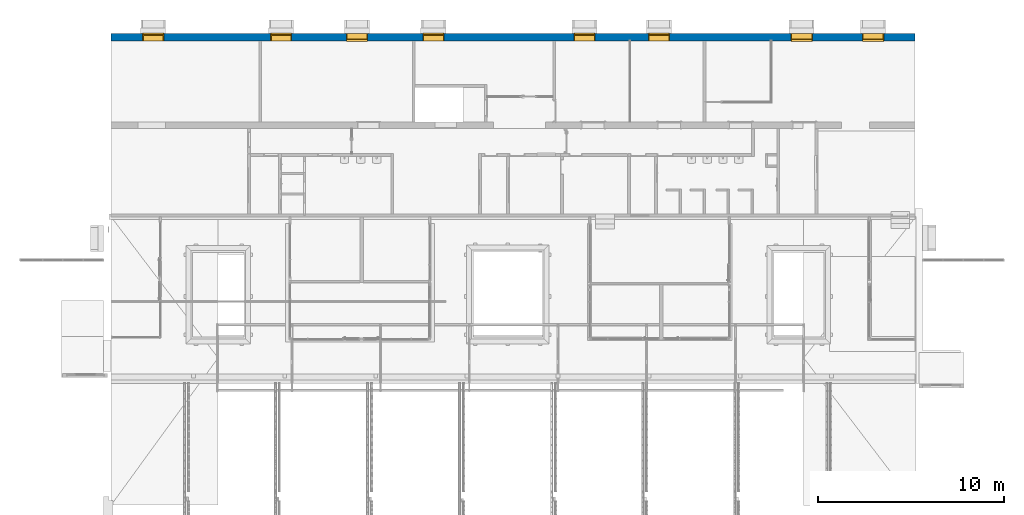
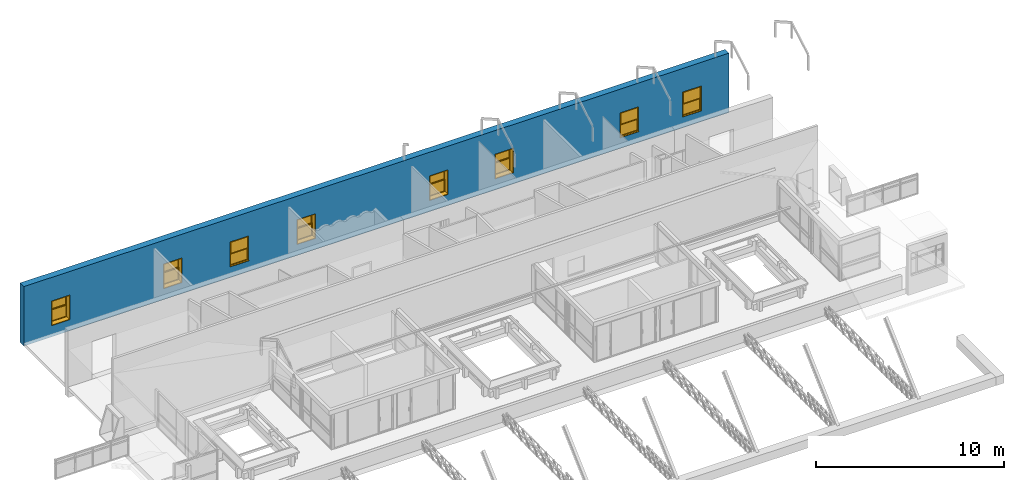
# One storey, part 136 of 153: 8 windows, 1 wall, 8 openings.
"""IFC4 building model written with IfcOpenShell, lengths in metres."""

import ifcopenshell
import ifcopenshell.guid

model = None  # the IFC model being written
_history = None  # IfcOwnerHistory: only IFC2X3 demands one
_inside = {}  # id of a spatial element -> (the spatial element, [elements in it])
_under = {}  # id of a project, library or spatial element -> (it, [spatial elements below it])
_declared = {}  # id of a project -> (the project, [libraries it declares])
_typed = {}  # id of a type object -> (the type object, [elements of that type])
_made_of = {}  # id of a material, layer set ... -> (it, [elements and type objects made of it])


def new_model(schema):
    """Start an empty IFC model of exactly this schema.

    Asked for "IFC4X3", IfcOpenShell would pick the latest addendum, in which some entities
    have other attributes; the version numbers below select the first issue.
    IFC2X3 requires an IfcOwnerHistory on every rooted entity: one is made here for all.
    """
    global model, _history
    if schema == "IFC4X3":
        model = ifcopenshell.file(schema_version=(4, 3, 0, 0))
    else:
        model = ifcopenshell.file(schema=schema)
    _inside.clear()
    _under.clear()
    _declared.clear()
    _typed.clear()
    _made_of.clear()
    _history = None
    if model.schema == "IFC2X3":
        org = make("IfcOrganization", Name="unknown")
        user = make(
            "IfcPersonAndOrganization",
            ThePerson=make("IfcPerson", FamilyName="unknown"),
            TheOrganization=org,
        )
        app = make(
            "IfcApplication",
            ApplicationDeveloper=org,
            Version="unknown",
            ApplicationFullName="unknown",
            ApplicationIdentifier="unknown",
        )
        _history = make(
            "IfcOwnerHistory",
            OwningUser=user,
            OwningApplication=app,
            ChangeAction="ADDED",
            CreationDate=0,
        )
    return model


def make(cls, **values):
    """One entity of the class cls with the attributes given. An attribute that is None is left unset."""
    return model.create_entity(
        cls, **{name: value for name, value in values.items() if value is not None}
    )


def entity(cls, *values):
    """Any entity or typed value of the class cls, its attributes in the order of the schema. None: left unset."""
    e = model.create_entity(cls)
    for i, value in enumerate(values):
        if value is not None:
            e[i] = value
    return e


def rooted(cls, **values):
    """An entity with a GlobalId (a new one), such as an element, a storey or a relation."""
    return make(cls, GlobalId=ifcopenshell.guid.new(), OwnerHistory=_history, **values)


def si_unit(unit_type, name, prefix=None):
    """IfcSIUnit, for example si_unit("LENGTHUNIT", "METRE", prefix="MILLI")."""
    return make("IfcSIUnit", UnitType=unit_type, Prefix=prefix, Name=name)


def converted_unit(unit_type, name, factor, base, dimensions=None, offset=None):
    """IfcConversionBasedUnit, such as the inch: factor (a typed value) times the base unit."""
    return make(
        "IfcConversionBasedUnit"
        if offset is None
        else "IfcConversionBasedUnitWithOffset",
        ConversionOffset=offset,
        Dimensions=None
        if dimensions is None
        else entity("IfcDimensionalExponents", *dimensions),
        UnitType=unit_type,
        Name=name,
        ConversionFactor=make(
            "IfcMeasureWithUnit", ValueComponent=factor, UnitComponent=base
        ),
    )


def derived_unit(unit_type, elements):
    """IfcDerivedUnit: a product of units, each with its exponent."""
    return make(
        "IfcDerivedUnit",
        Elements=[
            make("IfcDerivedUnitElement", Unit=unit, Exponent=power)
            for unit, power in elements
        ],
        UnitType=unit_type,
    )


def assignment(units):
    """IfcUnitAssignment: the units of a project."""
    return None if units is None else make("IfcUnitAssignment", Units=units)


def point(xyz):
    """IfcCartesianPoint."""
    return None if xyz is None else make("IfcCartesianPoint", Coordinates=xyz)


def direction(xyz):
    """IfcDirection."""
    return None if xyz is None else make("IfcDirection", DirectionRatios=xyz)


def frame(location, z_axis=None, x_axis=None):
    """IfcAxis2Placement3D, a coordinate frame: its origin and axes. An axis left out is left unset."""
    return make(
        "IfcAxis2Placement3D",
        Location=point(location),
        Axis=direction(z_axis),
        RefDirection=direction(x_axis),
    )


def origin():
    """The frame at (0, 0, 0) with its axes left unset."""
    return frame((0.0, 0.0, 0.0))


def place(relative_to, where):
    """IfcLocalPlacement: puts the frame where relative to a parent placement (None: the world)."""
    return make(
        "IfcLocalPlacement", PlacementRelTo=relative_to, RelativePlacement=where
    )


def context(
    kind, dimensions, precision=None, world=None, true_north=None, identifier=None
):
    """IfcGeometricRepresentationContext, for example the 3D "Model" context."""
    return make(
        "IfcGeometricRepresentationContext",
        ContextIdentifier=identifier,
        ContextType=kind,
        CoordinateSpaceDimension=dimensions,
        Precision=precision,
        WorldCoordinateSystem=world,
        TrueNorth=true_north,
    )


def subcontext(parent, identifier, kind, view, scale=None):
    """IfcGeometricRepresentationSubContext, for example "Body" below "Model"."""
    return make(
        "IfcGeometricRepresentationSubContext",
        ContextIdentifier=identifier,
        ContextType=kind,
        ParentContext=parent,
        TargetScale=scale,
        TargetView=view,
    )


def project(units=None, contexts=None):
    """IfcProject with its units and contexts."""
    return rooted(
        "IfcProject",
        Name="project",
        RepresentationContexts=contexts,
        UnitsInContext=assignment(units),
    )


def spatial(cls, under=None, at=None, **own):
    """A site, building, storey or space (cls), placed at a placement, below another one or the project."""
    s = rooted(cls, ObjectPlacement=at, **own)
    if under is not None:
        _under.setdefault(under.id(), (under, []))[1].append(s)
    return s


def point_list(points):
    """IfcCartesianPointList2D or 3D."""
    cls = (
        "IfcCartesianPointList2D" if len(points[0]) == 2 else "IfcCartesianPointList3D"
    )
    return make(cls, CoordList=points)


def indexed_curve(points, segments=None, self_intersect=None):
    """IfcIndexedPolyCurve: lines and arcs through numbered points (the first is 1)."""
    return make(
        "IfcIndexedPolyCurve",
        Points=point_list(points),
        Segments=segments,
        SelfIntersect=self_intersect,
    )


def outline(outer, holes=None, kind="AREA"):
    """IfcArbitraryClosedProfileDef: a profile drawn as a closed curve; with holes, ...WithVoids."""
    if holes is None:
        return make("IfcArbitraryClosedProfileDef", ProfileType=kind, OuterCurve=outer)
    return make(
        "IfcArbitraryProfileDefWithVoids",
        ProfileType=kind,
        OuterCurve=outer,
        InnerCurves=holes,
    )


def extrude(swept, where, along, depth):
    """IfcExtrudedAreaSolid: the profile swept, set in the frame where, extruded along a direction by depth."""
    return make(
        "IfcExtrudedAreaSolid",
        SweptArea=swept,
        Position=where,
        ExtrudedDirection=direction(along),
        Depth=depth,
    )


def polygons(points, faces, closed=None, point_numbers=None):
    """IfcPolygonalFaceSet: a face is its outer loop, then its inner loops; points numbered from 1."""
    made = []
    for loops in faces:
        if len(loops) == 1:
            made.append(make("IfcIndexedPolygonalFace", CoordIndex=loops[0]))
        else:
            made.append(
                make(
                    "IfcIndexedPolygonalFaceWithVoids",
                    CoordIndex=loops[0],
                    InnerCoordIndices=loops[1:],
                )
            )
    return make(
        "IfcPolygonalFaceSet",
        Coordinates=point_list(points),
        Closed=closed,
        Faces=made,
        PnIndex=point_numbers,
    )


def shape(context_of_items, identifier, shape_type, items):
    """IfcShapeRepresentation: the items that make up one representation, for example the "Body"."""
    return make(
        "IfcShapeRepresentation",
        ContextOfItems=context_of_items,
        RepresentationIdentifier=identifier,
        RepresentationType=shape_type,
        Items=items,
    )


def source(mapping_origin, context_of_items, identifier, shape_type, items):
    """IfcRepresentationMap: a shape defined once, which mapped items show again and again."""
    return make(
        "IfcRepresentationMap",
        MappingOrigin=mapping_origin,
        MappedRepresentation=shape(context_of_items, identifier, shape_type, items),
    )


def transform(
    local_origin,
    x_axis=None,
    y_axis=None,
    z_axis=None,
    scale=None,
    scale2=None,
    scale3=None,
    uniform=True,
):
    """IfcCartesianTransformationOperator3D, or its non-uniform kind. x_axis, y_axis, z_axis: its Axis1, 2, 3."""
    if uniform:
        return make(
            "IfcCartesianTransformationOperator3D",
            Axis1=direction(x_axis),
            Axis2=direction(y_axis),
            LocalOrigin=point(local_origin),
            Scale=scale,
            Axis3=direction(z_axis),
        )
    return make(
        "IfcCartesianTransformationOperator3DnonUniform",
        Axis1=direction(x_axis),
        Axis2=direction(y_axis),
        LocalOrigin=point(local_origin),
        Scale=scale,
        Axis3=direction(z_axis),
        Scale2=scale2,
        Scale3=scale3,
    )


def mapped(mapping_source, mapping_target):
    """IfcMappedItem: shows the shape of a source again, moved by a transform."""
    return make(
        "IfcMappedItem", MappingSource=mapping_source, MappingTarget=mapping_target
    )


def material(Name=None, Category=None):
    """IfcMaterial."""
    return make("IfcMaterial", Name=Name, Category=Category)


def constituent(of_material, Name=None, Category=None, fraction=None):
    """IfcMaterialConstituent: one of the materials an element consists of."""
    return make(
        "IfcMaterialConstituent",
        Name=Name,
        Material=of_material,
        Fraction=fraction,
        Category=Category,
    )


def constituent_set(constituents=None, Name=None):
    """IfcMaterialConstituentSet."""
    return make(
        "IfcMaterialConstituentSet", Name=Name, MaterialConstituents=constituents
    )


def made_of(thing, what):
    """Note that an element or type object is made of a material, layer set ...; save() writes the relation."""
    if what is not None:
        _made_of.setdefault(what.id(), (what, []))[1].append(thing)
    return thing


def type_object(cls, material=None, **own):
    """A type object (cls), such as IfcWallType, which elements share."""
    return made_of(rooted(cls, **own), material)


def type_shapes(of_type, sources):
    """Give a type object the sources (RepresentationMaps) that its elements show as mapped items."""
    of_type.RepresentationMaps = sources


def element(
    cls,
    number,
    at=None,
    inside=None,
    cuts=None,
    type_object=None,
    material=None,
    context=None,
    identifier="Body",
    shape_type=None,
    held_by="IfcProductDefinitionShape",
    body=None,
    shapes=None,
    **own,
):
    """One element of the class cls, such as IfcWall. Its Tag is "e" and its number.

    at: its placement. inside: the storey or other place that contains it. cuts: it is an
    opening in that element (IfcRelVoidsElement). A single representation is given by context,
    identifier, shape_type and body (its items); several are given by shapes. held_by: the class
    of the entity that holds the representations. save() writes the other relations.
    """
    e = rooted(cls, Tag="e%d" % number, ObjectPlacement=at, **own)
    if body is not None:
        shapes = [shape(context, identifier, shape_type, body)]
    if shapes is not None:
        e.Representation = make(held_by, Representations=shapes)
    if inside is not None:
        _inside.setdefault(inside.id(), (inside, []))[1].append(e)
    if cuts is not None:
        rooted(
            "IfcRelVoidsElement", RelatingBuildingElement=cuts, RelatedOpeningElement=e
        )
    if type_object is not None:
        _typed.setdefault(type_object.id(), (type_object, []))[1].append(e)
    return made_of(e, material)


def fill(opening, filler):
    """IfcRelFillsElement: the door or window that sits in an opening."""
    return rooted(
        "IfcRelFillsElement",
        RelatingOpeningElement=opening,
        RelatedBuildingElement=filler,
    )


def aggregate(whole, parts):
    """IfcRelAggregates: a whole, such as a stair, and the parts it consists of."""
    return rooted("IfcRelAggregates", RelatingObject=whole, RelatedObjects=parts)


def save(model, path):
    """Write the relations noted so far, then the file.

    IfcRelAggregates (storeys below a building ...), IfcRelContainedInSpatialStructure (elements
    in a storey), IfcRelDefinesByType, IfcRelAssociatesMaterial and IfcRelDeclares: one each for
    every whole, place, type object, material and project.
    """
    for whole, parts in _under.values():
        aggregate(whole, parts)
    for where, things in _inside.values():
        rooted(
            "IfcRelContainedInSpatialStructure",
            RelatedElements=things,
            RelatingStructure=where,
        )
    for kind, things in _typed.values():
        rooted("IfcRelDefinesByType", RelatedObjects=things, RelatingType=kind)
    for what, things in _made_of.values():
        rooted("IfcRelAssociatesMaterial", RelatedObjects=things, RelatingMaterial=what)
    for by, libraries in _declared.values():
        rooted("IfcRelDeclares", RelatingContext=by, RelatedDefinitions=libraries)
    model.write(path)


model = new_model("IFC4")

# Units and contexts
model_context = context("Model", 3, precision=1e-05, world=origin(), true_north=direction((6.123031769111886e-17, 1.0)))
body_context = subcontext(model_context, "Body", "Model", "MODEL_VIEW")
ifc_project = project(units=[si_unit("LENGTHUNIT", "METRE"), si_unit("AREAUNIT", "SQUARE_METRE"), si_unit("VOLUMEUNIT", "CUBIC_METRE"), converted_unit("PLANEANGLEUNIT", "DEGREE", entity("IfcRatioMeasure", 0.017453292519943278), si_unit("PLANEANGLEUNIT", "RADIAN"), dimensions=[0, 0, 0, 0, 0, 0, 0]), si_unit("MASSUNIT", "GRAM", prefix="KILO"), derived_unit("MASSDENSITYUNIT", [(si_unit("MASSUNIT", "GRAM", prefix="KILO"), 1), (si_unit("LENGTHUNIT", "METRE"), -3)]), derived_unit("MOMENTOFINERTIAUNIT", [(si_unit("LENGTHUNIT", "METRE"), 4)]), si_unit("TIMEUNIT", "SECOND"), si_unit("FREQUENCYUNIT", "HERTZ"), si_unit("THERMODYNAMICTEMPERATUREUNIT", "DEGREE_CELSIUS"), derived_unit("THERMALTRANSMITTANCEUNIT", [(si_unit("MASSUNIT", "GRAM", prefix="KILO"), 1), (si_unit("THERMODYNAMICTEMPERATUREUNIT", "KELVIN"), -1), (si_unit("TIMEUNIT", "SECOND"), -3)]), derived_unit("VOLUMETRICFLOWRATEUNIT", [(si_unit("LENGTHUNIT", "METRE"), 3), (si_unit("TIMEUNIT", "SECOND"), -1)]), derived_unit("MASSFLOWRATEUNIT", [(si_unit("MASSUNIT", "GRAM", prefix="KILO"), 1), (si_unit("TIMEUNIT", "SECOND"), -1)]), derived_unit("ROTATIONALFREQUENCYUNIT", [(si_unit("TIMEUNIT", "SECOND"), -1)]), si_unit("ELECTRICCURRENTUNIT", "AMPERE"), si_unit("ELECTRICVOLTAGEUNIT", "VOLT"), si_unit("POWERUNIT", "WATT"), si_unit("FORCEUNIT", "NEWTON", prefix="KILO"), si_unit("ILLUMINANCEUNIT", "LUX"), si_unit("LUMINOUSFLUXUNIT", "LUMEN"), si_unit("LUMINOUSINTENSITYUNIT", "CANDELA"), derived_unit("USERDEFINED", [(si_unit("MASSUNIT", "GRAM", prefix="KILO"), -1), (si_unit("LENGTHUNIT", "METRE"), -2), (si_unit("TIMEUNIT", "SECOND"), 3), (si_unit("LUMINOUSFLUXUNIT", "LUMEN"), 1)]), derived_unit("SOUNDPOWERUNIT", [(si_unit("MASSUNIT", "GRAM", prefix="KILO"), 1), (si_unit("LENGTHUNIT", "METRE"), 2), (si_unit("TIMEUNIT", "SECOND"), -3)]), derived_unit("SOUNDPRESSUREUNIT", [(si_unit("MASSUNIT", "GRAM", prefix="KILO"), 1), (si_unit("LENGTHUNIT", "METRE"), -1), (si_unit("TIMEUNIT", "SECOND"), -2)]), derived_unit("LINEARVELOCITYUNIT", [(si_unit("LENGTHUNIT", "METRE"), 1), (si_unit("TIMEUNIT", "SECOND"), -1)]), si_unit("PRESSUREUNIT", "PASCAL"), derived_unit("USERDEFINED", [(si_unit("LENGTHUNIT", "METRE"), -2), (si_unit("MASSUNIT", "GRAM", prefix="KILO"), 1), (si_unit("TIMEUNIT", "SECOND"), -2)]), derived_unit("LINEARFORCEUNIT", [(si_unit("MASSUNIT", "GRAM", prefix="KILO"), 1), (si_unit("LENGTHUNIT", "METRE"), 1), (si_unit("TIMEUNIT", "SECOND"), -2), (si_unit("LENGTHUNIT", "METRE"), -1)]), derived_unit("PLANARFORCEUNIT", [(si_unit("MASSUNIT", "GRAM", prefix="KILO"), 1), (si_unit("LENGTHUNIT", "METRE"), 1), (si_unit("TIMEUNIT", "SECOND"), -2), (si_unit("LENGTHUNIT", "METRE"), -2)])], contexts=[model_context])

# Site, building, storey
site_placement = place(None, origin())
site = spatial("IfcSite", under=ifc_project, at=site_placement, Name="Superficie", CompositionType="ELEMENT")
building_placement = place(site_placement, origin())
building = spatial("IfcBuilding", under=site, at=building_placement, CompositionType="ELEMENT")
storey_placement = place(building_placement, frame((0.0, 0.0, 3.5999999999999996)))
storey = spatial("IfcBuildingStorey", under=building, at=storey_placement, Name="Nivel 1", CompositionType="ELEMENT", Elevation=3.5999999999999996)

# Wall, openings, windows
ifc_material_1 = material(Name="Muro por defecto", Category="Varios")
wall_type = type_object("IfcWallType", Name="Muro básico:Por defecto - 40 cm 2", PredefinedType="STANDARD")
wall_placement = place(storey_placement, frame((20.58679901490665, 15.285829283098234, 0.32000000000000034), z_axis=(0.0, 0.0, 1.0), x_axis=(-1.0, 0.0, 0.0)))
wall = element("IfcWall", 1, at=wall_placement, inside=storey, type_object=wall_type, material=ifc_material_1, Name="Muro básico:Por defecto - 40 cm 2", ObjectType="Muro básico:Por defecto - 40 cm 2", PredefinedType="NOTDEFINED", context=body_context, shape_type="Tessellation", body=[
    polygons([(2.7726647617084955e-15, -0.2, -5.414335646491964e-16), (43.23000000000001, -0.2, -5.414335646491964e-16), (43.23000000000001, -0.2, 3.8499999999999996), (2.7726647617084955e-15, -0.2, 3.8499999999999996), (2.8334516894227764, -0.2, 2.3199999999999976), (2.8334516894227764, -0.2, 0.7199999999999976), (1.683451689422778, -0.20000000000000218, 0.7199999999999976), (1.683451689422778, -0.20000000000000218, 2.3199999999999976), (13.209457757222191, -0.2, 2.3199999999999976), (14.33945775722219, -0.2, 2.3199999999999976), (14.33945775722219, -0.2, 0.7199999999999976), (13.209457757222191, -0.2, 0.7199999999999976), (25.336044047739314, -0.2, 2.32), (26.466044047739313, -0.2, 2.32), (26.466044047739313, -0.2, 0.7199999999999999), (25.336044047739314, -0.2, 0.7199999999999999), (33.519555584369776, -0.2, 2.3199999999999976), (34.64955558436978, -0.2, 2.3199999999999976), (34.64955558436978, -0.2, 0.7199999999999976), (33.519555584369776, -0.2, 0.7199999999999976), (30.586771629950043, -0.2, 2.3199999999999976), (30.586771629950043, -0.2, 0.7199999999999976), (29.436771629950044, -0.2, 0.7199999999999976), (29.436771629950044, -0.2, 2.3199999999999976), (40.4, -0.2, 2.3199999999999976), (41.53, -0.2, 2.3199999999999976), (41.53, -0.2, 0.7199999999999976), (40.4, -0.2, 0.7199999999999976), (17.20726237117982, -0.2, 2.3199999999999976), (18.33726237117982, -0.2, 2.3199999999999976), (18.33726237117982, -0.2, 0.7199999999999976), (17.20726237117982, -0.2, 0.7199999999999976), (6.672486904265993, -0.2, 2.319999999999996), (6.672486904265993, -0.2, 0.7199999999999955), (5.522486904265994, -0.2, 0.7199999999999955), (5.522486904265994, -0.2, 2.319999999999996), (1.4703433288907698e-15, 0.2, -5.414335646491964e-16), (1.4703433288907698e-15, 0.2, 3.8499999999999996), (43.23000000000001, 0.20000000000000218, 3.8499999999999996), (43.23000000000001, 0.20000000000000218, -5.414335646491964e-16), (2.8334516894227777, 0.2, 2.3199999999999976), (1.6834516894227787, 0.2, 2.3199999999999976), (1.6834516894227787, 0.2, 0.7199999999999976), (2.8334516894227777, 0.2, 0.7199999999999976), (13.209457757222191, 0.2, 2.3199999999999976), (13.209457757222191, 0.2, 0.7199999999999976), (14.33945775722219, 0.2, 0.7199999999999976), (14.33945775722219, 0.2, 2.3199999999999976), (25.33604404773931, 0.2, 2.32), (25.33604404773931, 0.2, 0.7199999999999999), (26.46604404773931, 0.2, 0.7199999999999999), (26.46604404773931, 0.2, 2.32), (33.519555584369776, 0.2, 2.3199999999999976), (33.519555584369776, 0.2, 0.7199999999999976), (34.64955558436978, 0.2, 0.7199999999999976), (34.64955558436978, 0.2, 2.3199999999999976), (30.586771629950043, 0.2, 2.3199999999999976), (29.43677162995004, 0.2, 2.3199999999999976), (29.43677162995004, 0.2, 0.7199999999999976), (30.586771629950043, 0.2, 0.7199999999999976), (40.4, 0.19999999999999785, 2.3199999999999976), (40.4, 0.19999999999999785, 0.7199999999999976), (41.53, 0.2, 0.7199999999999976), (41.53, 0.2, 2.3199999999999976), (17.20726237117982, 0.2, 2.3199999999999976), (17.20726237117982, 0.2, 0.7199999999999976), (18.33726237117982, 0.2, 0.7199999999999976), (18.33726237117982, 0.2, 2.3199999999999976), (6.6724869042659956, 0.2, 2.319999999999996), (5.522486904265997, 0.2, 2.319999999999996), (5.522486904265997, 0.2, 0.7199999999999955), (6.6724869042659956, 0.2, 0.7199999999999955)], [[[1, 2, 3, 4], [5, 6, 7, 8], [9, 10, 11, 12], [13, 14, 15, 16], [17, 18, 19, 20], [21, 22, 23, 24], [25, 26, 27, 28], [29, 30, 31, 32], [33, 34, 35, 36]], [[37, 38, 39, 40], [41, 42, 43, 44], [45, 46, 47, 48], [49, 50, 51, 52], [53, 54, 55, 56], [57, 58, 59, 60], [61, 62, 63, 64], [65, 66, 67, 68], [69, 70, 71, 72]], [[2, 1, 37, 40]], [[4, 3, 39, 38]], [[1, 4, 38, 37]], [[6, 5, 41, 44]], [[7, 6, 44, 43]], [[8, 7, 43, 42]], [[5, 8, 42, 41]], [[46, 45, 9, 12]], [[47, 46, 12, 11]], [[48, 47, 11, 10]], [[45, 48, 10, 9]], [[50, 49, 13, 16]], [[51, 50, 16, 15]], [[52, 51, 15, 14]], [[49, 52, 14, 13]], [[54, 53, 17, 20]], [[55, 54, 20, 19]], [[56, 55, 19, 18]], [[53, 56, 18, 17]], [[22, 21, 57, 60]], [[23, 22, 60, 59]], [[24, 23, 59, 58]], [[21, 24, 58, 57]], [[62, 61, 25, 28]], [[63, 62, 28, 27]], [[64, 63, 27, 26]], [[61, 64, 26, 25]], [[66, 65, 29, 32]], [[67, 66, 32, 31]], [[68, 67, 31, 30]], [[65, 68, 30, 29]], [[34, 33, 69, 72]], [[35, 34, 72, 71]], [[36, 35, 71, 70]], [[33, 36, 70, 69]], [[3, 2, 40, 39]]], closed=True),
])
opening_1_placement = place(wall_placement, frame((1.6834516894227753, -0.20000000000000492, 0.7199999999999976)))
opening_1 = element("IfcOpeningElement", 2, at=opening_1_placement, cuts=wall, Name="Ventana de guillotina de 2 hojas:1500x 1600mm 4:1", PredefinedType="OPENING", context=body_context, shape_type="SweptSolid", body=[
    extrude(outline(indexed_curve([(1.6000000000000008, 1.1499999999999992), (0.0, 1.1499999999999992), (5.414335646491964e-16, -1.8729764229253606e-30), (1.6000000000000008, -1.8729764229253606e-30), (1.6000000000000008, 1.1499999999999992)], self_intersect=False)), frame((0.0, 0.0, 0.0), z_axis=(0.0, 1.0, 0.0), x_axis=(0.0, 0.0, 1.0)), (0.0, 0.0, 1.0), 0.4),
])
opening_2_placement = place(wall_placement, frame((14.339457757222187, 0.19999999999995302, 0.7199999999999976)))
opening_2 = element("IfcOpeningElement", 3, at=opening_2_placement, cuts=wall, Name="Ventana de guillotina de 2 hojas:1300x 1600mm 3:1", PredefinedType="OPENING", context=body_context, shape_type="SweptSolid", body=[
    extrude(outline(indexed_curve([(1.6000000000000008, 1.1299999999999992), (0.0, 1.1299999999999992), (5.414335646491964e-16, -2.093326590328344e-30), (1.6000000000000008, -2.093326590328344e-30), (1.6000000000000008, 1.1299999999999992)], self_intersect=False)), frame((0.0, 0.0, 0.0), z_axis=(0.0, -1.0, 0.0), x_axis=(0.0, 0.0, 1.0)), (0.0, 0.0, 1.0), 0.4),
])
opening_3_placement = place(wall_placement, frame((26.46604404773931, 0.19999999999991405, 0.7200000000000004)))
opening_3 = element("IfcOpeningElement", 4, at=opening_3_placement, cuts=wall, Name="Ventana de guillotina de 2 hojas:1300x 1600mm 3:1", PredefinedType="OPENING", context=body_context, shape_type="SweptSolid", body=[
    extrude(outline(indexed_curve([(1.6, 1.1299999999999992), (5.414335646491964e-16, 1.1299999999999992), (0.0, -2.2035016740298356e-30), (1.6, -2.2035016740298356e-30), (1.6, 1.1299999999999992)], self_intersect=False)), frame((0.0, 0.0, 0.0), z_axis=(0.0, -1.0, 0.0), x_axis=(0.0, 0.0, 1.0)), (0.0, 0.0, 1.0), 0.4),
])
opening_4_placement = place(wall_placement, frame((34.64955558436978, 0.19999999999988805, 0.7199999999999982)))
opening_4 = element("IfcOpeningElement", 5, at=opening_4_placement, cuts=wall, Name="Ventana de guillotina de 2 hojas:1300x 1600mm 3:1", PredefinedType="OPENING", context=body_context, shape_type="SweptSolid", body=[
    extrude(outline(indexed_curve([(1.6, 1.1299999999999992), (5.414335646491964e-16, 1.1299999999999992), (0.0, -2.093326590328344e-30), (1.6, -2.093326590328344e-30), (1.6, 1.1299999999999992)], self_intersect=False)), frame((0.0, 0.0, 0.0), z_axis=(0.0, -1.0, 0.0), x_axis=(0.0, 0.0, 1.0)), (0.0, 0.0, 1.0), 0.4),
])
opening_5_placement = place(wall_placement, frame((29.43677162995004, -0.20000000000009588, 0.7199999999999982)))
opening_5 = element("IfcOpeningElement", 6, at=opening_5_placement, cuts=wall, Name="Ventana de guillotina de 2 hojas:1500x 1600mm 4:1", PredefinedType="OPENING", context=body_context, shape_type="SweptSolid", body=[
    extrude(outline(indexed_curve([(1.6, 1.1499999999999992), (5.414335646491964e-16, 1.1499999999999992), (0.0, -1.8729764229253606e-30), (1.6, -1.8729764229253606e-30), (1.6, 1.1499999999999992)], self_intersect=False)), frame((0.0, 0.0, 0.0), z_axis=(0.0, 1.0, 0.0), x_axis=(0.0, 0.0, 1.0)), (0.0, 0.0, 1.0), 0.4),
])
opening_6_placement = place(wall_placement, frame((41.529999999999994, 0.19999999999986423, 0.7199999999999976)))
opening_6 = element("IfcOpeningElement", 7, at=opening_6_placement, cuts=wall, Name="Ventana de guillotina de 2 hojas:1300x 1600mm 3:1", PredefinedType="OPENING", context=body_context, shape_type="SweptSolid", body=[
    extrude(outline(indexed_curve([(1.6000000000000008, 1.1299999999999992), (0.0, 1.1299999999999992), (5.414335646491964e-16, -2.093326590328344e-30), (1.6000000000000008, -2.093326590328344e-30), (1.6000000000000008, 1.1299999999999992)], self_intersect=False)), frame((0.0, 0.0, 0.0), z_axis=(0.0, -1.0, 0.0), x_axis=(0.0, 0.0, 1.0)), (0.0, 0.0, 1.0), 0.4),
])
opening_7_placement = place(wall_placement, frame((18.33726237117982, 0.19999999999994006, 0.7199999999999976)))
opening_7 = element("IfcOpeningElement", 8, at=opening_7_placement, cuts=wall, Name="Ventana de guillotina de 2 hojas:1300x 1600mm 3:1", PredefinedType="OPENING", context=body_context, shape_type="SweptSolid", body=[
    extrude(outline(indexed_curve([(1.6000000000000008, 1.1299999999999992), (0.0, 1.1299999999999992), (5.414335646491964e-16, -2.2035016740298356e-30), (1.6000000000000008, -2.2035016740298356e-30), (1.6000000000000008, 1.1299999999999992)], self_intersect=False)), frame((0.0, 0.0, 0.0), z_axis=(0.0, -1.0, 0.0), x_axis=(0.0, 0.0, 1.0)), (0.0, 0.0, 1.0), 0.4),
])
opening_8_placement = place(wall_placement, frame((5.522486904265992, -0.2000000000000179, 0.7199999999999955)))
opening_8 = element("IfcOpeningElement", 9, at=opening_8_placement, cuts=wall, Name="Ventana de guillotina de 2 hojas:1500x 1600mm 4:1", PredefinedType="OPENING", context=body_context, shape_type="SweptSolid", body=[
    extrude(outline(indexed_curve([(1.6000000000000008, 1.1499999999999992), (0.0, 1.1499999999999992), (5.414335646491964e-16, -1.8729764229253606e-30), (1.6000000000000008, -1.8729764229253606e-30), (1.6000000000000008, 1.1499999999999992)], self_intersect=False)), frame((0.0, 0.0, 0.0), z_axis=(0.0, 1.0, 0.0), x_axis=(0.0, 0.0, 1.0)), (0.0, 0.0, 1.0), 0.4),
])
ifc_material_2 = material(Name="Vidrio", Category="Vidrio")
ifc_constituent_1 = constituent(ifc_material_2, Name="Vidrio", Category="Vidrio")
ifc_material_3 = material(Name="Hoja", Category="Madera")
ifc_constituent_2 = constituent(ifc_material_3, Name="Hoja", Category="Madera")
ifc_material_4 = material(Name="Madera - Castaño", Category="Madera")
ifc_constituent_3 = constituent(ifc_material_4, Name="Madera - Castaño", Category="Madera")
ifc_constituent_set_1 = constituent_set(constituents=[ifc_constituent_1, ifc_constituent_2, ifc_constituent_3], Name="MaterialConstituentSet")
ifc_constituent_4 = constituent(ifc_material_2, Name="Cristal", Category="Vidrio")
ifc_constituent_5 = constituent(ifc_material_3, Name="Marco/montante", Category="Madera")
ifc_constituent_6 = constituent(ifc_material_4, Name="Marco/montante", Category="Madera")
ifc_constituent_set_2 = constituent_set(constituents=[ifc_constituent_4, ifc_constituent_5, ifc_constituent_6], Name="MaterialConstituentSet")
window_type_1 = type_object("IfcWindowType", Name="Ventana de guillotina de 2 hojas:1500x 1600mm 4", PartitioningType="NOTDEFINED", PredefinedType="WINDOW", material=ifc_constituent_set_2)
shared_shape_1 = source(origin(), body_context, "Body", "SweptSolid", [
    extrude(outline(indexed_curve([(-0.006350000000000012, -0.5115000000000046), (0.0063499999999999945, -0.5115000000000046), (0.0063499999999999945, 0.5115000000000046), (-0.006350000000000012, 0.5115000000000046), (-0.006350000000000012, -0.5115000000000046)], self_intersect=False)), frame((0.5749999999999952, 0.314325, 0.06350000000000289), z_axis=(0.0, 0.0, 1.0), x_axis=(0.0, -1.0, 0.0)), (0.0, 0.0, 1.0), 0.7142749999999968),
    extrude(outline(indexed_curve([(-0.5559500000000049, -0.4015874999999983), (0.5559500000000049, -0.4015874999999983), (0.5559500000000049, 0.4015874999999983), (-0.5559500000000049, 0.4015874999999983), (-0.5559500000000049, -0.4015874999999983)], self_intersect=False), holes=[indexed_curve([(-0.5115000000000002, -0.35713749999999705), (-0.5115000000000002, 0.35713749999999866), (0.5115000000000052, 0.35713749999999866), (0.5115000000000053, -0.35713749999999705), (-0.5115000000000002, -0.35713749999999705)], self_intersect=False)]), frame((0.5749999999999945, 0.29209999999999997, 0.42063750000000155), z_axis=(0.0, 1.0, 0.0), x_axis=(1.0, 0.0, 0.0)), (0.0, 0.0, 1.0), 0.04445000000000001),
    extrude(outline(indexed_curve([(-0.012699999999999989, -0.5749999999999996), (0.012700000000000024, -0.5749999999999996), (0.012700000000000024, 0.5749999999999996), (-0.012699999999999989, 0.5749999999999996), (-0.012699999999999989, -0.5749999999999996)], self_intersect=False)), frame((0.5749999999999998, 0.41270000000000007, 0.0), z_axis=(0.0, 0.0, 1.0), x_axis=(0.0, -1.0, 0.0)), (0.0, 0.0, 1.0), 0.01905000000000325),
    extrude(outline(indexed_curve([(-0.006350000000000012, -0.511499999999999), (0.006349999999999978, -0.511499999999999), (0.006349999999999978, 0.511499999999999), (-0.006350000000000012, 0.511499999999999), (-0.006350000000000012, -0.511499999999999)], self_intersect=False)), frame((0.5750000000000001, 0.35877500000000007, 0.8222249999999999), z_axis=(0.0, 0.0, 1.0), x_axis=(0.0, 1.0, 0.0)), (0.0, 0.0, 1.0), 0.7142749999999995),
    extrude(outline(indexed_curve([(-0.5559499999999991, -0.40158749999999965), (0.5559499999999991, -0.40158749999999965), (0.5559499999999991, 0.40158749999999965), (-0.5559499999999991, 0.40158749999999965), (-0.5559499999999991, -0.40158749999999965)], self_intersect=False), holes=[indexed_curve([(-0.5114999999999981, -0.35713750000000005), (-0.5114999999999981, 0.3571374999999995), (0.5114999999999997, 0.3571374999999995), (0.5114999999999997, -0.35713750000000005), (-0.5114999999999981, -0.35713750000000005)], self_intersect=False)]), frame((0.5749999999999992, 0.33655, 1.1793624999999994), z_axis=(0.0, 1.0, 0.0), x_axis=(1.0, 0.0, 0.0)), (0.0, 0.0, 1.0), 0.044449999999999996),
    extrude(outline(indexed_curve([(-0.5749999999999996, -0.7999999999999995), (0.5749999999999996, -0.7999999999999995), (0.5749999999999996, 0.7999999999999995), (-0.5749999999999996, 0.7999999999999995), (-0.5749999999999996, -0.7999999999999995)], self_intersect=False), holes=[indexed_curve([(-0.5432499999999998, -0.768249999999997), (-0.5432499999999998, 0.7682500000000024), (0.5432499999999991, 0.7682500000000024), (0.5432499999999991, -0.768249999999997), (-0.5432499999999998, -0.768249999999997)], self_intersect=False)]), frame((0.5749999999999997, 0.0, 0.8000000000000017), z_axis=(0.0, 1.0, 0.0), x_axis=(1.0, 0.0, 0.0)), (0.0, 0.0, 1.0), 0.29209999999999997),
    extrude(outline(indexed_curve([(-0.8000000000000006, -0.5750000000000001), (0.8000000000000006, -0.5750000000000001), (0.8000000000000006, 0.5750000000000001), (-0.8000000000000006, 0.5750000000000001), (-0.8000000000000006, -0.5750000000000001)], self_intersect=False), holes=[indexed_curve([(-0.7809500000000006, -0.5559499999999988), (-0.7809500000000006, 0.5559500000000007), (0.7809499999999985, 0.5559500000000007), (0.7809499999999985, -0.5559499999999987), (-0.7809500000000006, -0.5559499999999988)], self_intersect=False)]), frame((0.5750000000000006, 0.29209999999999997, 0.8000000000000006), z_axis=(0.0, 1.0, 0.0), x_axis=(0.0, 0.0, -1.0)), (0.0, 0.0, 1.0), 0.10790000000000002),
])
type_shapes(window_type_1, [shared_shape_1])
window_1_placement = place(opening_1_placement, origin())
window_1 = element("IfcWindow", 10, at=window_1_placement, inside=storey, type_object=window_type_1, material=ifc_constituent_set_1, Name="Ventana de guillotina de 2 hojas:1500x 1600mm 4", ObjectType="Ventana de guillotina de 2 hojas:1500x 1600mm 4", OverallHeight=1.6000000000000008, OverallWidth=1.1499999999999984, PartitioningType="NOTDEFINED", PredefinedType="WINDOW", context=body_context, shape_type="MappedRepresentation", body=[
    mapped(shared_shape_1, transform((0.0, 0.0, 0.0), scale=1.0)),
])
fill(opening_1, window_1)
ifc_constituent_7 = constituent(ifc_material_2, Name="Vidrio", Category="Vidrio")
ifc_constituent_8 = constituent(ifc_material_3, Name="Hoja", Category="Madera")
ifc_constituent_9 = constituent(ifc_material_4, Name="Madera - Castaño", Category="Madera")
ifc_constituent_set_3 = constituent_set(constituents=[ifc_constituent_7, ifc_constituent_8, ifc_constituent_9], Name="MaterialConstituentSet")
window_2_placement = place(opening_5_placement, origin())
window_2 = element("IfcWindow", 11, at=window_2_placement, inside=storey, type_object=window_type_1, material=ifc_constituent_set_3, Name="Ventana de guillotina de 2 hojas:1500x 1600mm 4", ObjectType="Ventana de guillotina de 2 hojas:1500x 1600mm 4", OverallHeight=1.6, OverallWidth=1.1500000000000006, PartitioningType="NOTDEFINED", PredefinedType="WINDOW", context=body_context, shape_type="MappedRepresentation", body=[
    mapped(shared_shape_1, transform((0.0, 0.0, 0.0), scale=1.0)),
])
fill(opening_5, window_2)
ifc_constituent_10 = constituent(ifc_material_2, Name="Vidrio", Category="Vidrio")
ifc_constituent_11 = constituent(ifc_material_3, Name="Hoja", Category="Madera")
ifc_constituent_12 = constituent(ifc_material_4, Name="Madera - Castaño", Category="Madera")
ifc_constituent_set_4 = constituent_set(constituents=[ifc_constituent_10, ifc_constituent_11, ifc_constituent_12], Name="MaterialConstituentSet")
window_3_placement = place(opening_8_placement, origin())
window_3 = element("IfcWindow", 12, at=window_3_placement, inside=storey, type_object=window_type_1, material=ifc_constituent_set_4, Name="Ventana de guillotina de 2 hojas:1500x 1600mm 4", ObjectType="Ventana de guillotina de 2 hojas:1500x 1600mm 4", OverallHeight=1.6000000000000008, OverallWidth=1.1499999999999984, PartitioningType="NOTDEFINED", PredefinedType="WINDOW", context=body_context, shape_type="MappedRepresentation", body=[
    mapped(shared_shape_1, transform((0.0, 0.0, 0.0), scale=1.0)),
])
fill(opening_8, window_3)
ifc_constituent_13 = constituent(ifc_material_2, Name="Vidrio", Category="Vidrio")
ifc_constituent_14 = constituent(ifc_material_3, Name="Hoja", Category="Madera")
ifc_constituent_15 = constituent(ifc_material_4, Name="Madera - Castaño", Category="Madera")
ifc_constituent_set_5 = constituent_set(constituents=[ifc_constituent_13, ifc_constituent_14, ifc_constituent_15], Name="MaterialConstituentSet")
ifc_constituent_16 = constituent(ifc_material_2, Name="Cristal", Category="Vidrio")
ifc_constituent_17 = constituent(ifc_material_3, Name="Marco/montante", Category="Madera")
ifc_constituent_18 = constituent(ifc_material_4, Name="Marco/montante", Category="Madera")
ifc_constituent_set_6 = constituent_set(constituents=[ifc_constituent_16, ifc_constituent_17, ifc_constituent_18], Name="MaterialConstituentSet")
window_type_2 = type_object("IfcWindowType", Name="Ventana de guillotina de 2 hojas:1300x 1600mm 3", PartitioningType="NOTDEFINED", PredefinedType="WINDOW", material=ifc_constituent_set_6)
shared_shape_2 = source(origin(), body_context, "Body", "SweptSolid", [
    extrude(outline(indexed_curve([(-0.006350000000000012, -0.5015000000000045), (0.0063499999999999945, -0.5015000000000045), (0.0063499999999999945, 0.5015000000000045), (-0.006350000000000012, 0.5015000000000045), (-0.006350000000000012, -0.5015000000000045)], self_intersect=False)), frame((0.5649999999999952, 0.314325, 0.06350000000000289), z_axis=(0.0, 0.0, 1.0), x_axis=(0.0, -1.0, 0.0)), (0.0, 0.0, 1.0), 0.7142749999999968),
    extrude(outline(indexed_curve([(-0.5459500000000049, -0.4015874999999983), (0.5459500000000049, -0.4015874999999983), (0.5459500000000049, 0.4015874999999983), (-0.5459500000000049, 0.4015874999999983), (-0.5459500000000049, -0.4015874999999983)], self_intersect=False), holes=[indexed_curve([(-0.5014999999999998, -0.35713749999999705), (-0.5015, 0.35713749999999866), (0.5015000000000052, 0.35713749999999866), (0.5015000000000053, -0.35713749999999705), (-0.5014999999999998, -0.35713749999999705)], self_intersect=False)]), frame((0.5649999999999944, 0.29209999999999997, 0.42063750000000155), z_axis=(0.0, 1.0, 0.0), x_axis=(1.0, 0.0, 0.0)), (0.0, 0.0, 1.0), 0.04445000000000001),
    extrude(outline(indexed_curve([(-0.012699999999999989, -0.5649999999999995), (0.012700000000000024, -0.5649999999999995), (0.012700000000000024, 0.5649999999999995), (-0.012699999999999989, 0.5649999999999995), (-0.012699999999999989, -0.5649999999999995)], self_intersect=False)), frame((0.5649999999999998, 0.41270000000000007, 0.0), z_axis=(0.0, 0.0, 1.0), x_axis=(0.0, -1.0, 0.0)), (0.0, 0.0, 1.0), 0.01905000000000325),
    extrude(outline(indexed_curve([(-0.006350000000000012, -0.5014999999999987), (0.006349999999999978, -0.5014999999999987), (0.006349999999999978, 0.5014999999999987), (-0.006350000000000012, 0.5014999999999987), (-0.006350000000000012, -0.5014999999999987)], self_intersect=False)), frame((0.5650000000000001, 0.35877500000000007, 0.8222249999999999), z_axis=(0.0, 0.0, 1.0), x_axis=(0.0, 1.0, 0.0)), (0.0, 0.0, 1.0), 0.7142749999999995),
    extrude(outline(indexed_curve([(-0.5459499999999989, -0.40158749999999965), (0.5459499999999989, -0.40158749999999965), (0.5459499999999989, 0.40158749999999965), (-0.5459499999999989, 0.40158749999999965), (-0.5459499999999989, -0.40158749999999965)], self_intersect=False), holes=[indexed_curve([(-0.501499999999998, -0.35713750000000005), (-0.501499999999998, 0.3571374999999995), (0.5014999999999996, 0.3571374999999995), (0.5014999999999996, -0.35713750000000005), (-0.501499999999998, -0.35713750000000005)], self_intersect=False)]), frame((0.5649999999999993, 0.33655, 1.1793624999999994), z_axis=(0.0, 1.0, 0.0), x_axis=(1.0, 0.0, 0.0)), (0.0, 0.0, 1.0), 0.044449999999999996),
    extrude(outline(indexed_curve([(-0.5649999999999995, -0.7999999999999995), (0.5649999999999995, -0.7999999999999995), (0.5649999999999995, 0.7999999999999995), (-0.5649999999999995, 0.7999999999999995), (-0.5649999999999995, -0.7999999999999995)], self_intersect=False), holes=[indexed_curve([(-0.5332499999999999, -0.768249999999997), (-0.53325, 0.7682500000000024), (0.533249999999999, 0.7682500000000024), (0.5332499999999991, -0.768249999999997), (-0.5332499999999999, -0.768249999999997)], self_intersect=False)]), frame((0.5649999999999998, 0.0, 0.8000000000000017), z_axis=(0.0, 1.0, 0.0), x_axis=(1.0, 0.0, 0.0)), (0.0, 0.0, 1.0), 0.29209999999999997),
    extrude(outline(indexed_curve([(-0.8000000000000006, -0.5649999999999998), (0.8000000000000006, -0.5649999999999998), (0.8000000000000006, 0.5649999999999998), (-0.8000000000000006, 0.5649999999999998), (-0.8000000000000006, -0.5649999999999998)], self_intersect=False), holes=[indexed_curve([(-0.7809500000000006, -0.5459499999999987), (-0.7809500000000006, 0.5459500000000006), (0.7809499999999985, 0.5459500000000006), (0.7809499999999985, -0.5459499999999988), (-0.7809500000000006, -0.5459499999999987)], self_intersect=False)]), frame((0.5650000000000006, 0.29209999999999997, 0.8000000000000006), z_axis=(0.0, 1.0, 0.0), x_axis=(0.0, 0.0, -1.0)), (0.0, 0.0, 1.0), 0.10790000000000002),
])
type_shapes(window_type_2, [shared_shape_2])
window_4_placement = place(opening_2_placement, frame((0.0, 0.0, 0.0), z_axis=(0.0, 0.0, 1.0), x_axis=(-1.0, 0.0, 0.0)))
window_4 = element("IfcWindow", 13, at=window_4_placement, inside=storey, type_object=window_type_2, material=ifc_constituent_set_5, Name="Ventana de guillotina de 2 hojas:1300x 1600mm 3", ObjectType="Ventana de guillotina de 2 hojas:1300x 1600mm 3", OverallHeight=1.6000000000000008, OverallWidth=1.1299999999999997, PartitioningType="NOTDEFINED", PredefinedType="WINDOW", context=body_context, shape_type="MappedRepresentation", body=[
    mapped(shared_shape_2, transform((0.0, 0.0, 0.0), scale=1.0)),
])
fill(opening_2, window_4)
ifc_constituent_19 = constituent(ifc_material_2, Name="Vidrio", Category="Vidrio")
ifc_constituent_20 = constituent(ifc_material_3, Name="Hoja", Category="Madera")
ifc_constituent_21 = constituent(ifc_material_4, Name="Madera - Castaño", Category="Madera")
ifc_constituent_set_7 = constituent_set(constituents=[ifc_constituent_19, ifc_constituent_20, ifc_constituent_21], Name="MaterialConstituentSet")
window_5_placement = place(opening_3_placement, frame((0.0, 0.0, 0.0), z_axis=(0.0, 0.0, 1.0), x_axis=(-1.0, 0.0, 0.0)))
window_5 = element("IfcWindow", 14, at=window_5_placement, inside=storey, type_object=window_type_2, material=ifc_constituent_set_7, Name="Ventana de guillotina de 2 hojas:1300x 1600mm 3", ObjectType="Ventana de guillotina de 2 hojas:1300x 1600mm 3", OverallHeight=1.6, OverallWidth=1.1299999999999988, PartitioningType="NOTDEFINED", PredefinedType="WINDOW", context=body_context, shape_type="MappedRepresentation", body=[
    mapped(shared_shape_2, transform((0.0, 0.0, 0.0), scale=1.0)),
])
fill(opening_3, window_5)
ifc_constituent_22 = constituent(ifc_material_2, Name="Vidrio", Category="Vidrio")
ifc_constituent_23 = constituent(ifc_material_3, Name="Hoja", Category="Madera")
ifc_constituent_24 = constituent(ifc_material_4, Name="Madera - Castaño", Category="Madera")
ifc_constituent_set_8 = constituent_set(constituents=[ifc_constituent_22, ifc_constituent_23, ifc_constituent_24], Name="MaterialConstituentSet")
window_6_placement = place(opening_4_placement, frame((0.0, 0.0, 0.0), z_axis=(0.0, 0.0, 1.0), x_axis=(-1.0, 0.0, 0.0)))
window_6 = element("IfcWindow", 15, at=window_6_placement, inside=storey, type_object=window_type_2, material=ifc_constituent_set_8, Name="Ventana de guillotina de 2 hojas:1300x 1600mm 3", ObjectType="Ventana de guillotina de 2 hojas:1300x 1600mm 3", OverallHeight=1.6, OverallWidth=1.1299999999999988, PartitioningType="NOTDEFINED", PredefinedType="WINDOW", context=body_context, shape_type="MappedRepresentation", body=[
    mapped(shared_shape_2, transform((0.0, 0.0, 0.0), scale=1.0)),
])
fill(opening_4, window_6)
ifc_constituent_25 = constituent(ifc_material_2, Name="Vidrio", Category="Vidrio")
ifc_constituent_26 = constituent(ifc_material_3, Name="Hoja", Category="Madera")
ifc_constituent_27 = constituent(ifc_material_4, Name="Madera - Castaño", Category="Madera")
ifc_constituent_set_9 = constituent_set(constituents=[ifc_constituent_25, ifc_constituent_26, ifc_constituent_27], Name="MaterialConstituentSet")
window_7_placement = place(opening_6_placement, frame((0.0, 0.0, 0.0), z_axis=(0.0, 0.0, 1.0), x_axis=(-1.0, 0.0, 0.0)))
window_7 = element("IfcWindow", 16, at=window_7_placement, inside=storey, type_object=window_type_2, material=ifc_constituent_set_9, Name="Ventana de guillotina de 2 hojas:1300x 1600mm 3", ObjectType="Ventana de guillotina de 2 hojas:1300x 1600mm 3", OverallHeight=1.6000000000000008, OverallWidth=1.1299999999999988, PartitioningType="NOTDEFINED", PredefinedType="WINDOW", context=body_context, shape_type="MappedRepresentation", body=[
    mapped(shared_shape_2, transform((0.0, 0.0, 0.0), scale=1.0)),
])
fill(opening_6, window_7)
ifc_constituent_28 = constituent(ifc_material_2, Name="Vidrio", Category="Vidrio")
ifc_constituent_29 = constituent(ifc_material_3, Name="Hoja", Category="Madera")
ifc_constituent_30 = constituent(ifc_material_4, Name="Madera - Castaño", Category="Madera")
ifc_constituent_set_10 = constituent_set(constituents=[ifc_constituent_28, ifc_constituent_29, ifc_constituent_30], Name="MaterialConstituentSet")
window_8_placement = place(opening_7_placement, frame((0.0, 0.0, 0.0), z_axis=(0.0, 0.0, 1.0), x_axis=(-1.0, 0.0, 0.0)))
window_8 = element("IfcWindow", 17, at=window_8_placement, inside=storey, type_object=window_type_2, material=ifc_constituent_set_10, Name="Ventana de guillotina de 2 hojas:1300x 1600mm 3", ObjectType="Ventana de guillotina de 2 hojas:1300x 1600mm 3", OverallHeight=1.6000000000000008, OverallWidth=1.1299999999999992, PartitioningType="NOTDEFINED", PredefinedType="WINDOW", context=body_context, shape_type="MappedRepresentation", body=[
    mapped(shared_shape_2, transform((0.0, 0.0, 0.0), scale=1.0)),
])
fill(opening_7, window_8)

save(model, "model.ifc")
